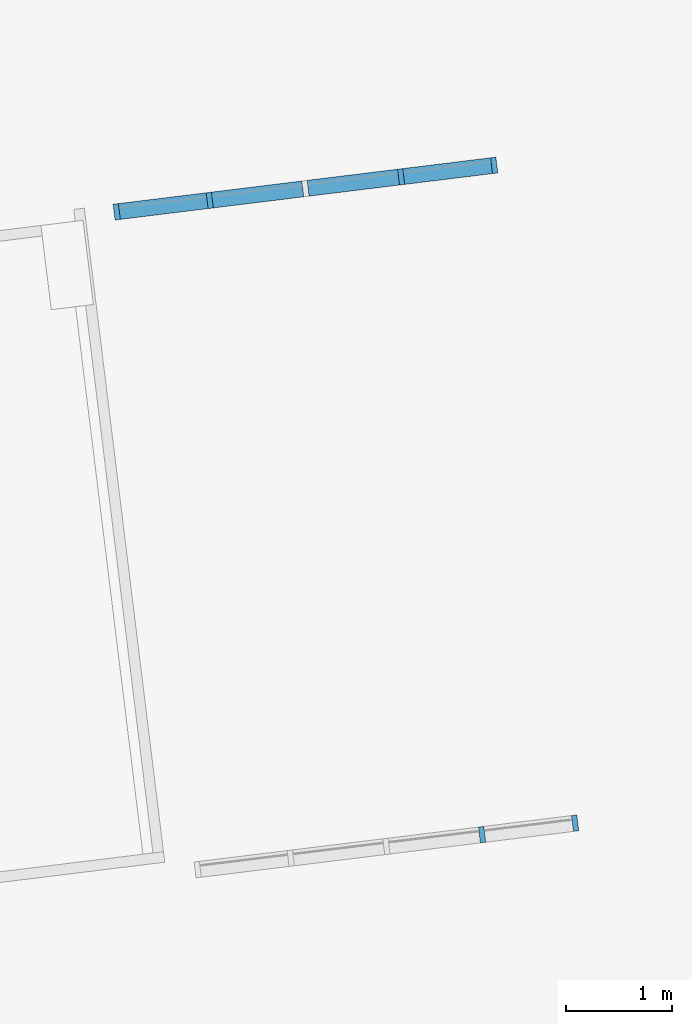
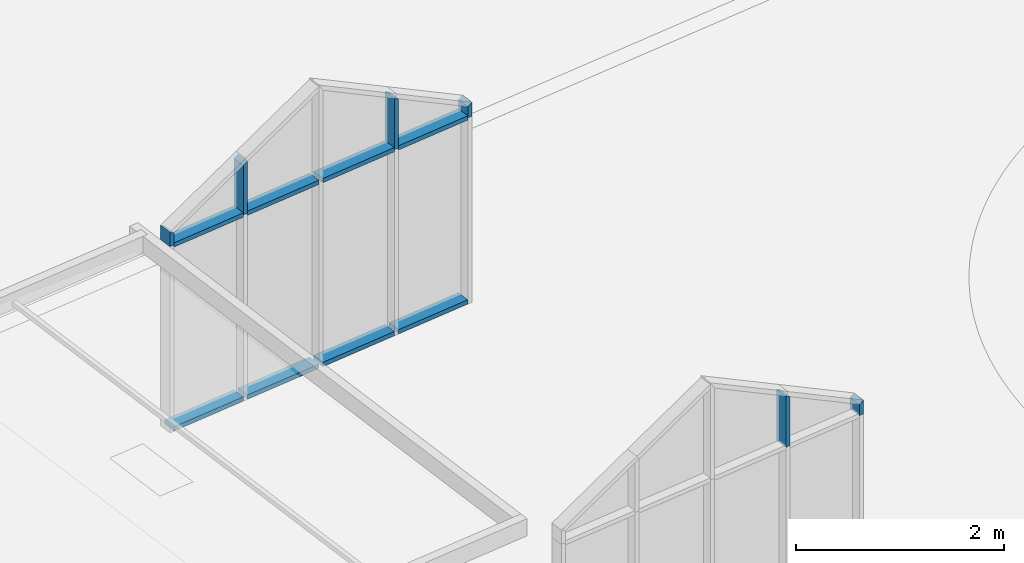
# One storey, part 5 of 75: 14 members, 2 elements without a shape of their own.
"""IFC2X3 building model written with IfcOpenShell, lengths in metres."""

from ifc_helpers import new_model, entity, si_unit, converted_unit, derived_unit, direction, frame, origin, origin_2d_with_axis, place, context, subcontext, project, spatial, polyline, rectangle, extrude, clip, halfspace, bounded_halfspace, source, transform, mapped, material, type_object, type_shapes, element, aggregate, save


model = new_model("IFC2X3")

# Units and contexts
model_context = context("Model", 3, precision=1e-05, world=origin(), true_north=direction((6.123031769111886e-17, 1.0)))
body_context = subcontext(model_context, "Body", "Model", "MODEL_VIEW")
ifc_project = project(units=[si_unit("LENGTHUNIT", "METRE"), si_unit("AREAUNIT", "SQUARE_METRE"), si_unit("VOLUMEUNIT", "CUBIC_METRE"), converted_unit("PLANEANGLEUNIT", "DEGREE", entity("IfcRatioMeasure", 0.017453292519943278), si_unit("PLANEANGLEUNIT", "RADIAN"), dimensions=[0, 0, 0, 0, 0, 0, 0]), si_unit("MASSUNIT", "GRAM", prefix="KILO"), derived_unit("MASSDENSITYUNIT", [(si_unit("MASSUNIT", "GRAM", prefix="KILO"), 1), (si_unit("LENGTHUNIT", "METRE"), -3)]), derived_unit("IONCONCENTRATIONUNIT", [(si_unit("MASSUNIT", "GRAM", prefix="KILO"), 1), (si_unit("LENGTHUNIT", "METRE"), -3)]), derived_unit("MOMENTOFINERTIAUNIT", [(si_unit("LENGTHUNIT", "METRE"), 4)]), si_unit("TIMEUNIT", "SECOND"), si_unit("FREQUENCYUNIT", "HERTZ"), si_unit("THERMODYNAMICTEMPERATUREUNIT", "DEGREE_CELSIUS"), derived_unit("THERMALTRANSMITTANCEUNIT", [(si_unit("MASSUNIT", "GRAM", prefix="KILO"), 1), (si_unit("THERMODYNAMICTEMPERATUREUNIT", "KELVIN"), -1), (si_unit("TIMEUNIT", "SECOND"), -3)]), derived_unit("THERMALCONDUCTANCEUNIT", [(si_unit("MASSUNIT", "GRAM", prefix="KILO"), 1), (si_unit("THERMODYNAMICTEMPERATUREUNIT", "KELVIN"), -1), (si_unit("TIMEUNIT", "SECOND"), -3), (si_unit("LENGTHUNIT", "METRE"), 1)]), derived_unit("VOLUMETRICFLOWRATEUNIT", [(si_unit("LENGTHUNIT", "METRE"), 3), (si_unit("TIMEUNIT", "SECOND"), -1)]), derived_unit("MASSFLOWRATEUNIT", [(si_unit("MASSUNIT", "GRAM", prefix="KILO"), 1), (si_unit("TIMEUNIT", "SECOND"), -1)]), derived_unit("ROTATIONALFREQUENCYUNIT", [(si_unit("TIMEUNIT", "SECOND"), -1)]), si_unit("ELECTRICCURRENTUNIT", "AMPERE"), si_unit("ELECTRICVOLTAGEUNIT", "VOLT"), si_unit("POWERUNIT", "WATT"), si_unit("FORCEUNIT", "NEWTON", prefix="KILO"), si_unit("ILLUMINANCEUNIT", "LUX"), si_unit("LUMINOUSFLUXUNIT", "LUMEN"), si_unit("LUMINOUSINTENSITYUNIT", "CANDELA"), derived_unit("USERDEFINED", [(si_unit("MASSUNIT", "GRAM", prefix="KILO"), -1), (si_unit("LENGTHUNIT", "METRE"), -2), (si_unit("TIMEUNIT", "SECOND"), 3), (si_unit("LUMINOUSFLUXUNIT", "LUMEN"), 1)]), derived_unit("USERDEFINED", [(si_unit("MASSUNIT", "GRAM", prefix="KILO"), 1), (si_unit("TIMEUNIT", "SECOND"), -3), (si_unit("LENGTHUNIT", "METRE"), 3), (si_unit("ELECTRICCURRENTUNIT", "AMPERE"), -2)]), derived_unit("SOUNDPOWERUNIT", [(si_unit("MASSUNIT", "GRAM", prefix="KILO"), 1), (si_unit("TIMEUNIT", "SECOND"), -3), (si_unit("LENGTHUNIT", "METRE"), 2)]), derived_unit("SOUNDPRESSUREUNIT", [(si_unit("MASSUNIT", "GRAM", prefix="KILO"), 1), (si_unit("LENGTHUNIT", "METRE"), -1), (si_unit("TIMEUNIT", "SECOND"), -2)]), derived_unit("LINEARVELOCITYUNIT", [(si_unit("LENGTHUNIT", "METRE"), 1), (si_unit("TIMEUNIT", "SECOND"), -1)]), si_unit("PRESSUREUNIT", "PASCAL"), derived_unit("USERDEFINED", [(si_unit("MASSUNIT", "GRAM", prefix="KILO"), 1), (si_unit("LENGTHUNIT", "METRE"), -2), (si_unit("TIMEUNIT", "SECOND"), -2)]), derived_unit("LINEARFORCEUNIT", [(si_unit("MASSUNIT", "GRAM", prefix="KILO"), 1), (si_unit("TIMEUNIT", "SECOND"), -2)]), derived_unit("PLANARFORCEUNIT", [(si_unit("MASSUNIT", "GRAM", prefix="KILO"), 1), (si_unit("LENGTHUNIT", "METRE"), -1), (si_unit("TIMEUNIT", "SECOND"), -2)]), derived_unit("SPECIFICHEATCAPACITYUNIT", [(si_unit("THERMODYNAMICTEMPERATUREUNIT", "KELVIN"), -1), (si_unit("LENGTHUNIT", "METRE"), 2), (si_unit("TIMEUNIT", "SECOND"), -2)]), derived_unit("HEATINGVALUEUNIT", [(si_unit("LENGTHUNIT", "METRE"), 2), (si_unit("TIMEUNIT", "SECOND"), -2)]), derived_unit("VAPORPERMEABILITYUNIT", [(si_unit("LENGTHUNIT", "METRE"), -1), (si_unit("TIMEUNIT", "SECOND"), 1)]), derived_unit("DYNAMICVISCOSITYUNIT", [(si_unit("MASSUNIT", "GRAM", prefix="KILO"), 1), (si_unit("TIMEUNIT", "SECOND"), -1), (si_unit("LENGTHUNIT", "METRE"), -1)]), derived_unit("THERMALEXPANSIONCOEFFICIENTUNIT", [(si_unit("THERMODYNAMICTEMPERATUREUNIT", "KELVIN"), -1)]), derived_unit("MODULUSOFELASTICITYUNIT", [(si_unit("MASSUNIT", "GRAM", prefix="KILO"), 1), (si_unit("LENGTHUNIT", "METRE"), -1), (si_unit("TIMEUNIT", "SECOND"), -2)]), derived_unit("ISOTHERMALMOISTURECAPACITYUNIT", [(si_unit("LENGTHUNIT", "METRE"), 3), (si_unit("MASSUNIT", "GRAM", prefix="KILO"), -1)]), derived_unit("MOISTUREDIFFUSIVITYUNIT", [(si_unit("TIMEUNIT", "SECOND"), -1), (si_unit("LENGTHUNIT", "METRE"), 2)])], contexts=[model_context])

# Site, building, storey
site_placement = place(None, origin())
site = spatial("IfcSite", under=ifc_project, at=site_placement, Name="Default", CompositionType="ELEMENT")
building_placement = place(site_placement, origin())
building = spatial("IfcBuilding", under=site, at=building_placement, Name="Projeto", CompositionType="ELEMENT")
storey_placement = place(building_placement, origin())
storey = spatial("IfcBuildingStorey", under=building, at=storey_placement, Name="Nível 1", CompositionType="ELEMENT", Elevation=0.0)

# Curtain wall, members
curtain_wall_type = type_object("IfcCurtainWallType", Name="Parede cortina:Vitrine", PredefinedType="NOTDEFINED")
curtain_wall_1_placement = place(storey_placement, origin())
curtain_wall_1 = element("IfcCurtainWall", 1, at=curtain_wall_1_placement, inside=storey, type_object=curtain_wall_type, Name="Parede cortina:Vitrine", ObjectType="Parede cortina:Vitrine")
ifc_material = material(Name="Alumín.")
member_type_1 = type_object("IfcMemberType", Name="Montante retangular:50 x 150mm", PredefinedType="MULLION", material=ifc_material)
shared_shape_1 = source(origin(), body_context, "Body", "SweptSolid", [
    extrude(rectangle(XDim=0.14999999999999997, YDim=0.05, at=origin_2d_with_axis()), frame((-0.025, 0.0, -0.8337612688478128), z_axis=(0.0, 0.0, 1.0), x_axis=(0.0, -1.0, 0.0)), (0.0, 0.0, 1.0), 0.8337612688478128),
])
type_shapes(member_type_1, [shared_shape_1])
member_1_placement = place(curtain_wall_1_placement, frame((7.956199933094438, 35.55132958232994, -2.579999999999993), z_axis=(-0.9925113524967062, -0.12215242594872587, 0.0), x_axis=(0.0, 0.0, -1.0)))
member_1 = element("IfcMember", 2, at=member_1_placement, type_object=member_type_1, material=ifc_material, Name="Montante retangular:50 x 150mm", ObjectType="Montante retangular:50 x 150mm", context=body_context, shape_type="MappedRepresentation", body=[
    mapped(shared_shape_1, transform((0.0, 0.0, 0.0), scale=1.0)),
])
member_2_placement = place(curtain_wall_1_placement, frame((10.637254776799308, 35.88129795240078, -2.579999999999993), z_axis=(-0.9925113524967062, -0.12215242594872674, 0.0), x_axis=(0.0, 0.0, -1.0)))
member_2 = element("IfcMember", 3, at=member_2_placement, type_object=member_type_1, material=ifc_material, Name="Montante retangular:50 x 150mm", ObjectType="Montante retangular:50 x 150mm", context=body_context, shape_type="MappedRepresentation", body=[
    mapped(shared_shape_1, transform((0.0, 0.0, 0.0), scale=1.0)),
])
member_type_2 = type_object("IfcMemberType", Name="Montante retangular:50 x 150mm", PredefinedType="MULLION", material=ifc_material)
shared_shape_2 = source(origin(), body_context, "Body", "SweptSolid", [
    extrude(rectangle(XDim=0.14999999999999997, YDim=0.05, at=origin_2d_with_axis()), frame((-0.025, 0.0, -0.858761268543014), z_axis=(0.0, 0.0, 1.0), x_axis=(0.0, -1.0, 0.0)), (0.0, 0.0, 1.0), 0.858761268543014),
])
type_shapes(member_type_2, [shared_shape_2])
member_3_placement = place(curtain_wall_1_placement, frame((8.833343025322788, 35.65928316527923, -2.579999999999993), z_axis=(-0.9925113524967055, -0.12215242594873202, 0.0), x_axis=(0.0, 0.0, -1.0)))
member_3 = element("IfcMember", 4, at=member_3_placement, type_object=member_type_2, material=ifc_material, Name="Montante retangular:50 x 150mm", ObjectType="Montante retangular:50 x 150mm", context=body_context, shape_type="MappedRepresentation", body=[
    mapped(shared_shape_2, transform((0.0, 0.0, 0.0), scale=1.0)),
])
member_4_placement = place(curtain_wall_1_placement, frame((9.735298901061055, 35.77029055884, -2.579999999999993), z_axis=(-0.9925113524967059, -0.12215242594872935, 0.0), x_axis=(0.0, 0.0, -1.0)))
member_4 = element("IfcMember", 5, at=member_4_placement, type_object=member_type_2, material=ifc_material, Name="Montante retangular:50 x 150mm", ObjectType="Montante retangular:50 x 150mm", context=body_context, shape_type="MappedRepresentation", body=[
    mapped(shared_shape_2, transform((0.0, 0.0, 0.0), scale=1.0)),
])
member_type_3 = type_object("IfcMemberType", Name="Montante retangular:50 x 150mm", PredefinedType="MULLION", material=ifc_material)
shared_shape_3 = source(origin(), body_context, "Body", "SweptSolid", [
    clip(clip(extrude(rectangle(XDim=0.14999999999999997, YDim=0.05, at=origin_2d_with_axis()), frame((0.0, 0.0, -0.6097128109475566), z_axis=(0.0, 0.0, 1.0), x_axis=(0.0, -1.0, 0.0)), (0.0, 0.0, 1.0), 0.6097128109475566), bounded_halfspace(frame((0.9249729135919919, 0.07499999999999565, -1.0882368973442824), z_axis=(-0.46947156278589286, 0.0, -0.8829475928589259), x_axis=(-0.8829475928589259, 0.0, 0.46947156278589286)), False, frame((0.0, 0.0, -0.6097128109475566), z_axis=(0.0, 0.0, 1.0), x_axis=(0.0, -1.0, 0.0)), polyline([(-0.07499999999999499, 0.025), (0.07499999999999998, 0.025), (0.07499999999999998, 0.023473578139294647), (-0.07499999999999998, 0.0234735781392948), (-0.07499999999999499, 0.025)]))), bounded_halfspace(frame((0.023473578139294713, 0.07499999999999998, -0.6089011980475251), z_axis=(-0.4694715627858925, 0.0, -0.8829475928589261), x_axis=(-0.8829475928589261, 0.0, 0.4694715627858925)), False, frame((0.0, 0.0, -0.6097128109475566), z_axis=(0.0, 0.0, 1.0), x_axis=(0.0, -1.0, 0.0)), polyline([(0.07499999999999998, 0.023473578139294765), (0.07499999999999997, -0.025), (-0.07499999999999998, -0.025), (-0.07499999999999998, 0.023473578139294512), (0.07499999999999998, 0.023473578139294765)]))),
])
type_shapes(member_type_3, [shared_shape_3])
member_5_placement = place(curtain_wall_1_placement, frame((8.80853024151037, 35.6562293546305, -0.39703155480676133), z_axis=(0.0, 0.0, -1.0), x_axis=(0.9925113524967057, 0.1221524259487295, 0.0)))
member_5 = element("IfcMember", 6, at=member_5_placement, type_object=member_type_3, material=ifc_material, Name="Montante retangular:50 x 150mm", ObjectType="Montante retangular:50 x 150mm", context=body_context, shape_type="MappedRepresentation", body=[
    mapped(shared_shape_3, transform((0.0, 0.0, 0.0), scale=1.0)),
])
member_type_4 = type_object("IfcMemberType", Name="Montante retangular:50 x 150mm", PredefinedType="MULLION", material=ifc_material)
shared_shape_4 = source(origin(), body_context, "Body", "SweptSolid", [
    extrude(rectangle(XDim=0.15, YDim=0.05, at=origin_2d_with_axis()), frame((0.0, 0.0, -0.8337612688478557), z_axis=(0.0, 0.0, 1.0), x_axis=(0.0, -1.0, 0.0)), (0.0, 0.0, 1.0), 0.8337612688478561),
])
type_shapes(member_type_4, [shared_shape_4])
member_6_placement = place(curtain_wall_1_placement, frame((8.783717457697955, 35.65317554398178, -0.39703155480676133), z_axis=(0.9925113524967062, 0.12215242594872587, 0.0), x_axis=(0.0, 0.0, 1.0)))
member_6 = element("IfcMember", 7, at=member_6_placement, type_object=member_type_4, material=ifc_material, Name="Montante retangular:50 x 150mm", ObjectType="Montante retangular:50 x 150mm", context=body_context, shape_type="MappedRepresentation", body=[
    mapped(shared_shape_4, transform((0.0, 0.0, 0.0), scale=1.0)),
])
member_7_placement = place(curtain_wall_1_placement, frame((11.464772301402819, 35.983143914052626, -0.39703155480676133), z_axis=(0.9925113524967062, 0.12215242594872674, 0.0), x_axis=(0.0, 0.0, 1.0)))
member_7 = element("IfcMember", 8, at=member_7_placement, type_object=member_type_4, material=ifc_material, Name="Montante retangular:50 x 150mm", ObjectType="Montante retangular:50 x 150mm", context=body_context, shape_type="MappedRepresentation", body=[
    mapped(shared_shape_4, transform((0.0, 0.0, 0.0), scale=1.0)),
])
member_type_5 = type_object("IfcMemberType", Name="Montante retangular:50 x 150mm", PredefinedType="MULLION", material=ifc_material)
shared_shape_5 = source(origin(), body_context, "Body", "SweptSolid", [
    extrude(rectangle(XDim=0.14999999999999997, YDim=0.05, at=origin_2d_with_axis()), frame((0.0, 0.0, -0.8587612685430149), z_axis=(0.0, 0.0, 1.0), x_axis=(0.0, -1.0, 0.0)), (0.0, 0.0, 1.0), 0.8587612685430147),
])
type_shapes(member_type_5, [shared_shape_5])
member_8_placement = place(curtain_wall_1_placement, frame((9.685673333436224, 35.764182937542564, -0.39703155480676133), z_axis=(0.9925113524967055, 0.12215242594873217, 0.0), x_axis=(0.0, 0.0, 1.0)))
member_8 = element("IfcMember", 9, at=member_8_placement, type_object=member_type_5, material=ifc_material, Name="Montante retangular:50 x 150mm", ObjectType="Montante retangular:50 x 150mm", context=body_context, shape_type="MappedRepresentation", body=[
    mapped(shared_shape_5, transform((0.0, 0.0, 0.0), scale=1.0)),
])
member_9_placement = place(curtain_wall_1_placement, frame((10.587629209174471, 35.87519033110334, -0.39703155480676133), z_axis=(0.9925113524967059, 0.1221524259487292, 0.0), x_axis=(0.0, 0.0, 1.0)))
member_9 = element("IfcMember", 10, at=member_9_placement, type_object=member_type_5, material=ifc_material, Name="Montante retangular:50 x 150mm", ObjectType="Montante retangular:50 x 150mm", context=body_context, shape_type="MappedRepresentation", body=[
    mapped(shared_shape_5, transform((0.0, 0.0, 0.0), scale=1.0)),
])
member_type_6 = type_object("IfcMemberType", Name="Montante retangular:50 x 150mm", PredefinedType="MULLION", material=ifc_material)
shared_shape_6 = source(origin(), body_context, "Body", "SweptSolid", [
    clip(extrude(rectangle(XDim=0.14999999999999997, YDim=0.05, at=origin_2d_with_axis()), frame((-0.025, 0.0, -0.16985163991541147), z_axis=(0.0, 0.0, 1.0), x_axis=(0.0, -1.0, 0.0)), (0.0, 0.0, 1.0), 0.1698516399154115), halfspace(frame((0.0, -0.3048, 0.0), z_axis=(-0.5150380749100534, 0.0, 0.8571673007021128), x_axis=(-0.8571673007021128, 0.0, -0.5150380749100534)), False)),
])
type_shapes(member_type_6, [shared_shape_6])
member_10_placement = place(curtain_wall_1_placement, frame((7.906574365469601, 35.545221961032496, -0.22717991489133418), z_axis=(0.0, 0.0, 1.0), x_axis=(-0.9925113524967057, -0.1221524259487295, 0.0)))
member_10 = element("IfcMember", 11, at=member_10_placement, type_object=member_type_6, material=ifc_material, Name="Montante retangular:50 x 150mm", ObjectType="Montante retangular:50 x 150mm", context=body_context, shape_type="MappedRepresentation", body=[
    mapped(shared_shape_6, transform((0.0, 0.0, 0.0), scale=1.0)),
])

# Curtain wall, member
curtain_wall_2_placement = place(storey_placement, origin())
curtain_wall_2 = element("IfcCurtainWall", 12, at=curtain_wall_2_placement, inside=storey, type_object=curtain_wall_type, Name="Parede cortina:Vitrine", ObjectType="Parede cortina:Vitrine")
member_type_7 = type_object("IfcMemberType", Name="Montante retangular:50 x 150mm", PredefinedType="MULLION", material=ifc_material)
shared_shape_7 = source(origin(), body_context, "Body", "SweptSolid", [
    clip(clip(extrude(rectangle(XDim=0.15000000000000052, YDim=0.05, at=origin_2d_with_axis()), frame((0.0, 0.0, -0.6019903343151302), z_axis=(0.0, 0.0, 1.0), x_axis=(0.0, -1.0, 0.0)), (0.0, 0.0, 1.0), 0.6019903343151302), bounded_halfspace(frame((-0.023473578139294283, 0.07499999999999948, -0.6011787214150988), z_axis=(0.46947156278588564, 0.0, -0.8829475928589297), x_axis=(-0.8829475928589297, 0.0, -0.46947156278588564)), False, frame((0.0, 0.0, -0.6019903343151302), z_axis=(0.0, 0.0, 1.0), x_axis=(0.0, -1.0, 0.0)), polyline([(0.07499999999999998, -0.023473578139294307), (0.07500000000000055, -0.025), (-0.07499999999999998, -0.025), (-0.07499999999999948, -0.023473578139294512), (0.07499999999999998, -0.023473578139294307)]))), bounded_halfspace(frame((0.8852876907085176, 0.07499999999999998, -0.1179817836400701), z_axis=(0.4694715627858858, 0.0, -0.8829475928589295), x_axis=(-0.8829475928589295, 0.0, -0.4694715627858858)), False, frame((0.0, 0.0, -0.6019903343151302), z_axis=(0.0, 0.0, 1.0), x_axis=(0.0, -1.0, 0.0)), polyline([(-0.07499999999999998, 0.025), (0.07499999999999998, 0.025000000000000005), (0.0750000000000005, -0.023473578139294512), (-0.07499999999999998, -0.023473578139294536), (-0.07499999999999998, 0.025)]))),
])
type_shapes(member_type_7, [shared_shape_7])
member_11_placement = place(curtain_wall_2_placement, frame((11.375656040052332, 29.67698698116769, -0.39703155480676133), z_axis=(0.0, 0.0, -1.0), x_axis=(0.9925113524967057, 0.1221524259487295, 0.0)))
member_11 = element("IfcMember", 13, at=member_11_placement, type_object=member_type_7, material=ifc_material, Name="Montante retangular:50 x 150mm", ObjectType="Montante retangular:50 x 150mm", context=body_context, shape_type="MappedRepresentation", body=[
    mapped(shared_shape_7, transform((0.0, 0.0, 0.0), scale=1.0)),
])

# Member
member_12_placement = place(curtain_wall_1_placement, frame((10.612441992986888, 35.878244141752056, -0.39703155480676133), z_axis=(0.0, 0.0, -1.0), x_axis=(0.9925113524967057, 0.1221524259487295, 0.0)))
member_12 = element("IfcMember", 14, at=member_12_placement, type_object=member_type_7, material=ifc_material, Name="Montante retangular:50 x 150mm", ObjectType="Montante retangular:50 x 150mm", context=body_context, shape_type="MappedRepresentation", body=[
    mapped(shared_shape_7, transform((0.0, 0.0, 0.0), scale=1.0)),
])

member_type_8 = type_object("IfcMemberType", Name="Montante retangular:50 x 150mm", PredefinedType="MULLION", material=ifc_material)
shared_shape_8 = source(origin(), body_context, "Body", "SweptSolid", [
    clip(extrude(rectangle(XDim=0.14999999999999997, YDim=0.05, at=origin_2d_with_axis()), frame((-0.025, 0.0, -0.16212916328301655), z_axis=(0.0, 0.0, 1.0), x_axis=(0.0, -1.0, 0.0)), (0.0, 0.0, 1.0), 0.16212916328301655), halfspace(frame((0.0, -0.3048, -0.16212916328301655), z_axis=(-0.5150380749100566, 0.0, -0.8571673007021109), x_axis=(-0.8571673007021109, 0.0, 0.5150380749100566)), False)),
])
type_shapes(member_type_8, [shared_shape_8])
member_13_placement = place(curtain_wall_2_placement, frame((12.277611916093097, 29.787994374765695, -0.39703155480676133), z_axis=(0.0, 0.0, -1.0), x_axis=(0.9925113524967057, 0.1221524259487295, 0.0)))
member_13 = element("IfcMember", 15, at=member_13_placement, type_object=member_type_8, material=ifc_material, Name="Montante retangular:50 x 150mm", ObjectType="Montante retangular:50 x 150mm", context=body_context, shape_type="MappedRepresentation", body=[
    mapped(shared_shape_8, transform((0.0, 0.0, 0.0), scale=1.0)),
])

aggregate(curtain_wall_2, [member_11, member_13])

member_14_placement = place(curtain_wall_1_placement, frame((11.51439786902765, 35.989251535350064, -0.39703155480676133), z_axis=(0.0, 0.0, -1.0), x_axis=(0.9925113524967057, 0.1221524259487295, 0.0)))
member_14 = element("IfcMember", 16, at=member_14_placement, type_object=member_type_8, material=ifc_material, Name="Montante retangular:50 x 150mm", ObjectType="Montante retangular:50 x 150mm", context=body_context, shape_type="MappedRepresentation", body=[
    mapped(shared_shape_8, transform((0.0, 0.0, 0.0), scale=1.0)),
])

aggregate(curtain_wall_1, [member_1, member_3, member_4, member_5, member_6, member_8, member_9, member_2, member_7, member_12, member_10, member_14])

save(model, "model.ifc")
